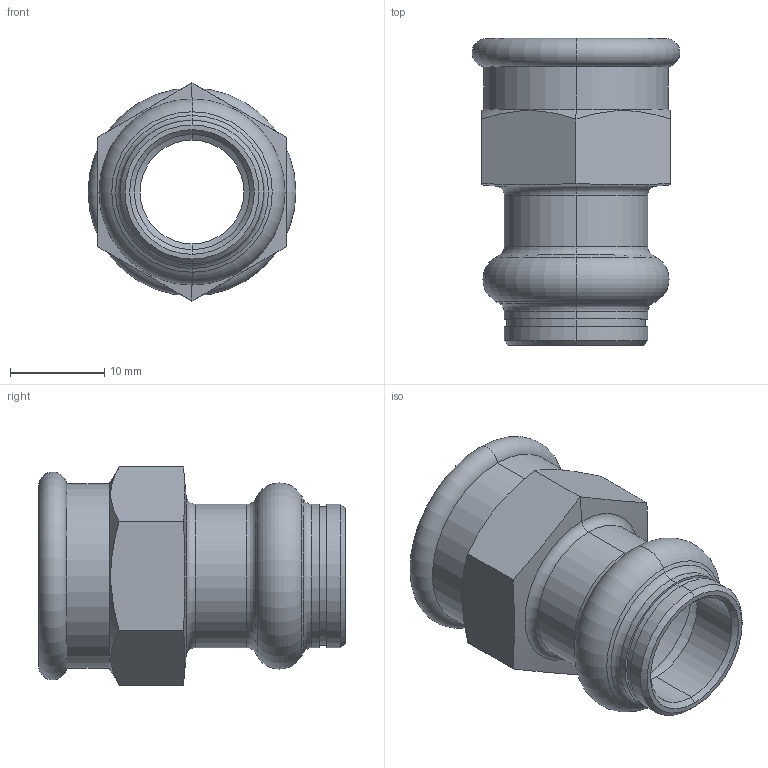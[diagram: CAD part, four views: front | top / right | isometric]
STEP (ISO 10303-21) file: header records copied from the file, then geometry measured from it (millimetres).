
FILE_DESCRIPTION (( 'STEP AP203' ), '1' );
FILE_NAME ('SP4270G Ø12 3-8.STEP', '2017-04-26T07:58:47', ( '' ), ( '' ), 'SwSTEP 2.0', 'SolidWorks 2016', '' );
FILE_SCHEMA (( 'CONFIG_CONTROL_DESIGN' ));
Length unit declared in the file: millimetre
Products named in the file (1): SP4270G Ø12 3-8
Bounding box: 22 x 32.5 x 23.09 mm (x, y, z)
Volume: 3936.5 mm3; surface area: 3997.3 mm2
Topology: 1 solids, 1 shells, 60 faces, 124 edges, 70 vertices
Faces by surface type: cylinder 18, cone 18, torus 12, plane 12
Entity records: 1723 total; most frequent: CARTESIAN_POINT 347, DIRECTION 304, ORIENTED_EDGE 248, AXIS2_PLACEMENT_3D 131, EDGE_CURVE 124, CIRCLE 70, VERTEX_POINT 70, EDGE_LOOP 66
